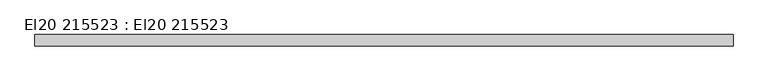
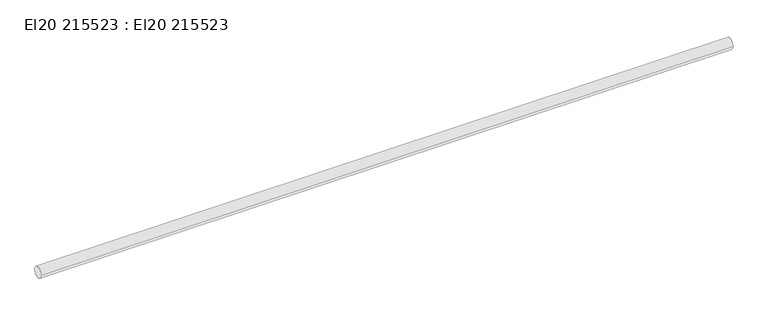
"""IFC4 building model written with IfcOpenShell, lengths in millimetres: cable carrier segment geometry, El20 215523 : El20 215523."""

from ifc_helpers import new_model, si_unit, point, frame, frame_2d, origin, place, context, project, spatial, circle_curve, trimmed, segment, composite_curve, outline, extrude, source, transform, mapped, element, save


def el20_215523_el20_215523_0c16398a(model_context):
    return source(origin(), model_context, "Body", "SweptSolid", [
        extrude(outline(composite_curve([segment(trimmed(circle_curve(frame_2d((17022.1, 4200.0)), 9.5), [point((17012.6, 4200.0))], [point((17031.6, 4200.0))], False, "CARTESIAN"), True, "CONTINUOUS"), segment(trimmed(circle_curve(frame_2d((17022.1, 4200.0)), 9.5), [point((17031.6, 4200.0))], [point((17012.6, 4200.0))], False, "CARTESIAN"), True, "CONTINUOUS")], self_intersect=False)), frame((18502.997, 0.0, 0.0), z_axis=(1.0, 0.0, 0.0), x_axis=(0.0, 1.0, 0.0)), (0.0, 0.0, 1.0), 1182.01),
    ])


if __name__ == "__main__":
    model = new_model("IFC4")
    model_context = context("Model", 3, world=origin())
    ifc_project = project(units=[si_unit("LENGTHUNIT", "METRE", prefix="MILLI")], contexts=[model_context])
    site = spatial("IfcSite", under=ifc_project)
    building = spatial("IfcBuilding", under=site)
    placement = place(None, origin())
    el20_215523_el20_215523_shape = el20_215523_el20_215523_0c16398a(model_context)
    element("IfcCableCarrierSegment", 1, ObjectType="El20 215523 : El20 215523", at=placement, inside=building, context=model_context, shape_type="MappedRepresentation", body=[
        mapped(el20_215523_el20_215523_shape, transform((0.0, 0.0, 0.0), x_axis=(1.0, 0.0, 0.0), y_axis=(0.0, 1.0, 0.0), z_axis=(0.0, 0.0, 1.0))),
    ])
    save(model, "model.ifc")
